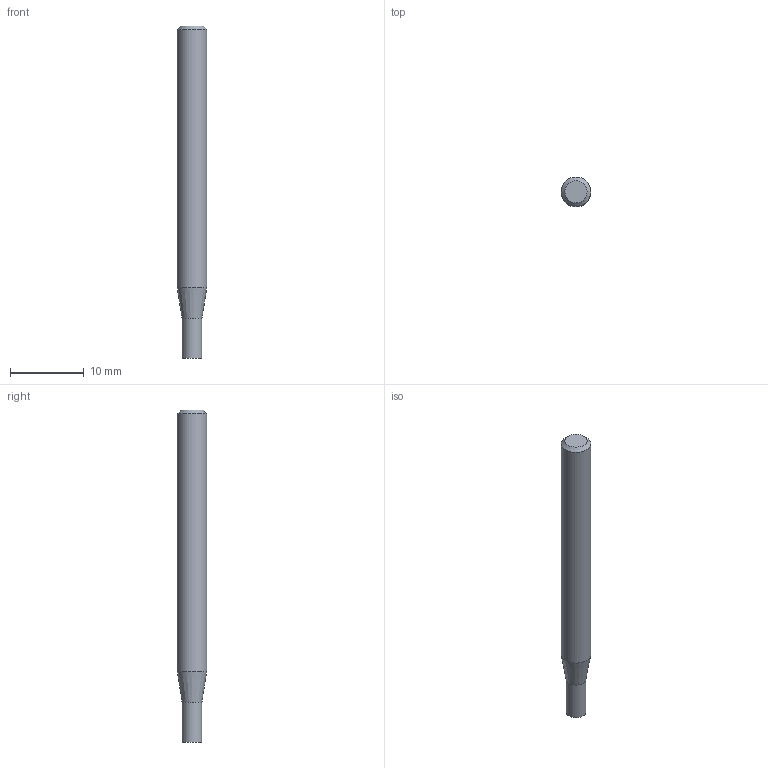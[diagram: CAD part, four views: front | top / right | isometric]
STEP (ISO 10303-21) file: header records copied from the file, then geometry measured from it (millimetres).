
FILE_DESCRIPTION((''),'2;1');
FILE_NAME('C:\Users\nsx150\AppData\Local\Temp\Mastercam 2021\QTW1OOEEGF\TEMP.step','2021-04-08T10:36:44',(''),(''),'STEP Write','Mastercam 2021 ... CNC Software, Inc.','');
FILE_SCHEMA(('AUTOMOTIVE_DESIGN'));
Length unit declared in the file: millimetre
Products named in the file (1): None
Bounding box: 4 x 4 x 45 mm (x, y, z)
Volume: 512.2 mm3; surface area: 561.3 mm2
Topology: 2 solids, 2 shells, 8 faces, 10 edges, 6 vertices
Faces by surface type: plane 4, cylinder 2, cone 2
Full cylindrical faces by diameter (mm): 2.7 x1, 4 x1
Entity records: 190 total; most frequent: DIRECTION 32, CARTESIAN_POINT 22, AXIS2_PLACEMENT_3D 16, ORIENTED_EDGE 12, EDGE_LOOP 12, STYLED_ITEM 11, ADVANCED_FACE 8, VERTEX_POINT 6
